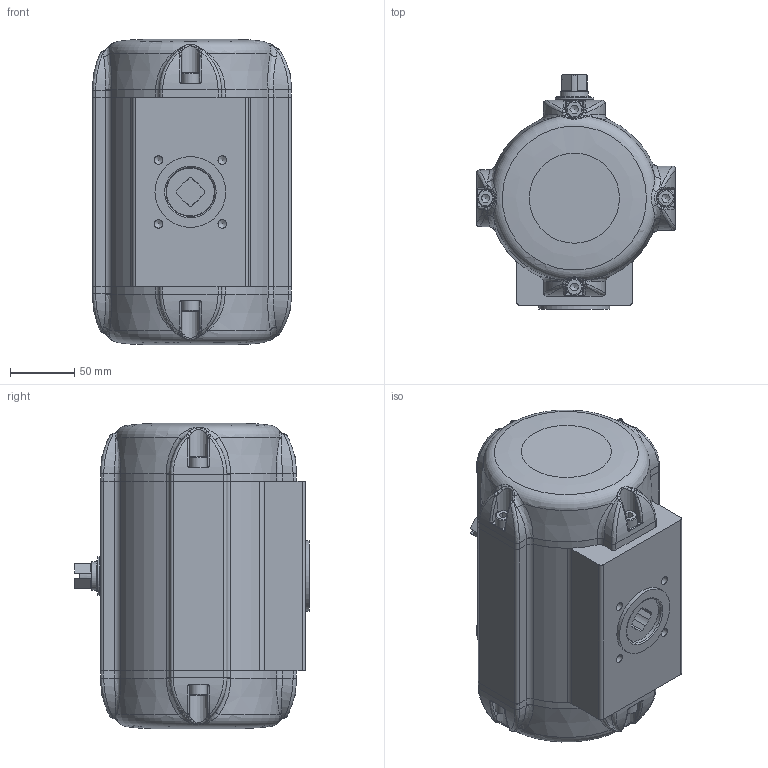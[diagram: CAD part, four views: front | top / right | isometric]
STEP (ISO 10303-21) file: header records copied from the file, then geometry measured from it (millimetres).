
FILE_DESCRIPTION(/* description */ (''),/* implementation_level */ '2;1');
FILE_NAME(/* name */ 'P:\KO\DOKUMENTATION ANTRIEBSPROGRAMM\AKTUELLES ANTRIEBSPROGRAMM\BR03C_SAD_SAF_90°_Chemie\STEP-Dateien\25\SAF 25 BR03C.stp',/* time_stamp */ '2020-12-11T07:58:12+01:00',/* author */ ('mkl'),/* organization */ (''),/* preprocessor_version */ 'ST-DEVELOPER v16.1',/* originating_system */ 'Autodesk Inventor 2016',/* authorisation */ '');
FILE_SCHEMA (('AUTOMOTIVE_DESIGN { 1 0 10303 214 3 1 1 }'));
Length unit declared in the file: millimetre
Products named in the file (1): ENG-089980_Shrinkwrap_1
Bounding box: 154.5 x 182 x 237 mm (x, y, z)
Surface area: 187100.7 mm2 (no closed solid volume)
Topology: 0 solids, 21 shells, 466 faces, 1531 edges, 1045 vertices
Faces by surface type: plane 142, cylinder 140, bspline 134, cone 39, torus 11
Full cylindrical faces by diameter (mm): 2 x2, 4.134 x8, 4.917 x1, 5 x1, 6.647 x4, 11.445 x2, 13 x9, 20 x1, 21.8 x1, 27 x1, 30 x2, 38 x1, 55 x1
Entity records: 24509 total; most frequent: CARTESIAN_POINT 12204, ORIENTED_EDGE 2398, DIRECTION 2133, EDGE_CURVE 1433, VERTEX_POINT 1014, AXIS2_PLACEMENT_3D 827, EDGE_LOOP 575, LINE 479
